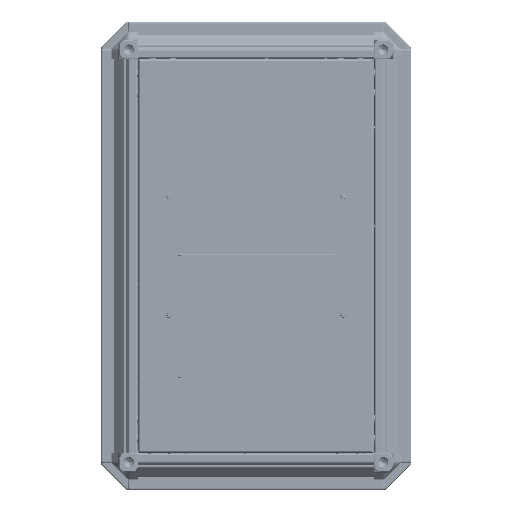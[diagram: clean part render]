
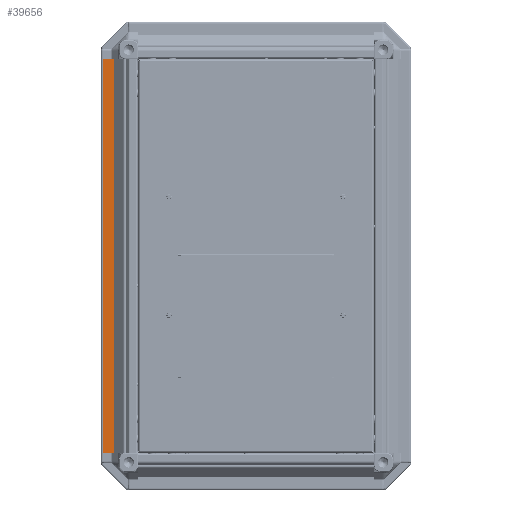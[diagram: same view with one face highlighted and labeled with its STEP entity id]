
A CAD part, front view. The second image highlights one B-rep face of the part: STEP entity #39656.
In plain terms, the highlighted planar face has unit normal (0, -1, 0) as drawn and (0.707, -0.707, 0) by its records, which use the part's own axes.
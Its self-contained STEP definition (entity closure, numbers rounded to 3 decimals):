
#285 = VECTOR ( 'NONE', #34307, 1000. ) ;
#874 = VERTEX_POINT ( 'NONE', #18649 ) ;
#3551 = VERTEX_POINT ( 'NONE', #16375 ) ;
#3694 = EDGE_LOOP ( 'NONE', ( #30042, #30087, #32369, #35188 ) ) ;
#4053 = EDGE_CURVE ( 'NONE', #874, #38157, #21570, .T. ) ;
#7955 = PLANE ( 'NONE',  #44222 ) ;
#10657 = VECTOR ( 'NONE', #27584, 1000. ) ;
#12079 = FACE_OUTER_BOUND ( 'NONE', #3694, .T. ) ;
#16375 = CARTESIAN_POINT ( 'NONE',  ( -12.747, 1.707, 498. ) ) ;
#16871 = LINE ( 'NONE', #29871, #285 ) ;
#16901 = EDGE_CURVE ( 'NONE', #874, #3551, #16871, .T. ) ;
#17075 = DIRECTION ( 'NONE',  ( 0., 0., -1. ) ) ;
#18649 = CARTESIAN_POINT ( 'NONE',  ( -22.386, -7.932, 498. ) ) ;
#19507 = VECTOR ( 'NONE', #17075, 1000. ) ;
#20984 = CARTESIAN_POINT ( 'NONE',  ( -12.747, 1.707, 0. ) ) ;
#21570 = LINE ( 'NONE', #39590, #52347 ) ;
#22826 = EDGE_CURVE ( 'NONE', #38157, #53514, #41737, .T. ) ;
#25932 = CARTESIAN_POINT ( 'NONE',  ( -12.747, 1.707, 498. ) ) ;
#25969 = DIRECTION ( 'NONE',  ( -0.707, 0.707, 0. ) ) ;
#26293 = DIRECTION ( 'NONE',  ( 0., 0., -1. ) ) ;
#27487 = CARTESIAN_POINT ( 'NONE',  ( -22.386, -7.932, 0. ) ) ;
#27584 = DIRECTION ( 'NONE',  ( 0.707, 0.707, 0. ) ) ;
#29871 = CARTESIAN_POINT ( 'NONE',  ( -22.386, -7.932, 498. ) ) ;
#30042 = ORIENTED_EDGE ( 'NONE', *, *, #22826, .T. ) ;
#30087 = ORIENTED_EDGE ( 'NONE', *, *, #32056, .F. ) ;
#32056 = EDGE_CURVE ( 'NONE', #3551, #53514, #48941, .T. ) ;
#32369 = ORIENTED_EDGE ( 'NONE', *, *, #16901, .F. ) ;
#34307 = DIRECTION ( 'NONE',  ( 0.707, 0.707, 0. ) ) ;
#35188 = ORIENTED_EDGE ( 'NONE', *, *, #4053, .T. ) ;
#38157 = VERTEX_POINT ( 'NONE', #27487 ) ;
#39590 = CARTESIAN_POINT ( 'NONE',  ( -22.386, -7.932, 498. ) ) ;
#39656 = ADVANCED_FACE ( 'NONE', ( #12079 ), #7955, .F. ) ;
#41737 = LINE ( 'NONE', #50572, #10657 ) ;
#43085 = DIRECTION ( 'NONE',  ( -0.707, -0.707, 0. ) ) ;
#44222 = AXIS2_PLACEMENT_3D ( 'NONE', #48377, #25969, #43085 ) ;
#48377 = CARTESIAN_POINT ( 'NONE',  ( -22.386, -7.932, 498. ) ) ;
#48941 = LINE ( 'NONE', #25932, #19507 ) ;
#50572 = CARTESIAN_POINT ( 'NONE',  ( -22.386, -7.932, 0. ) ) ;
#52347 = VECTOR ( 'NONE', #26293, 1000. ) ;
#53514 = VERTEX_POINT ( 'NONE', #20984 ) ;
